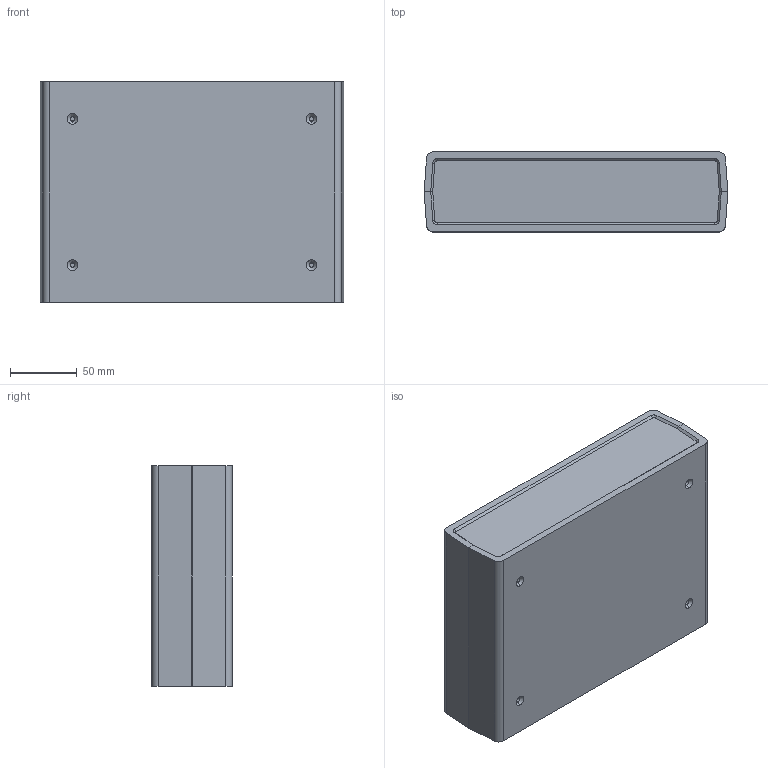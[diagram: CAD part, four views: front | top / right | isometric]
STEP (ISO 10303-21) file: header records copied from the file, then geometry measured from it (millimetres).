
FILE_DESCRIPTION (( 'STEP AP203' ), '1' );
FILE_NAME ('PT220.STEP', '2020-01-17T12:06:05', ( '' ), ( '' ), 'SwSTEP 2.0', 'SolidWorks 2020', '' );
FILE_SCHEMA (( 'CONFIG_CONTROL_DESIGN' ));
Length unit declared in the file: millimetre
Products named in the file (4): PT220
Assembly tree (4 placements, depth 2):
  PT220
    PT220
    PT220
    PT220  x2
Bounding box: 226.79 x 60 x 165 mm (x, y, z)
Volume: 359664.6 mm3; surface area: 260138.4 mm2
Topology: 4 solids, 4 shells, 548 faces, 1384 edges, 920 vertices
Faces by surface type: plane 316, cylinder 116, cone 76, bspline 40
Entity records: 17392 total; most frequent: CARTESIAN_POINT 3799, DIRECTION 2748, ORIENTED_EDGE 2708, EDGE_CURVE 1354, AXIS2_PLACEMENT_3D 925, VERTEX_POINT 900, LINE 898, VECTOR 898
